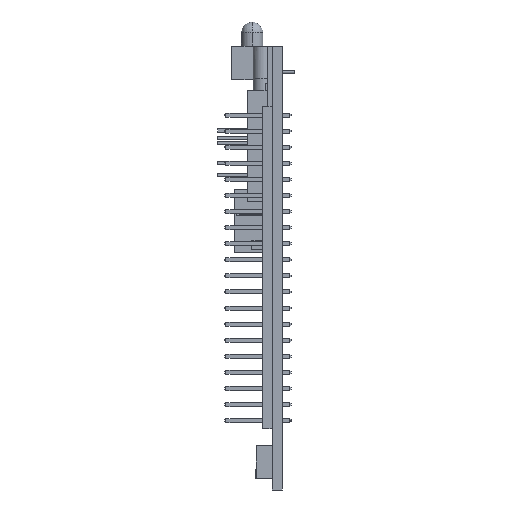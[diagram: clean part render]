
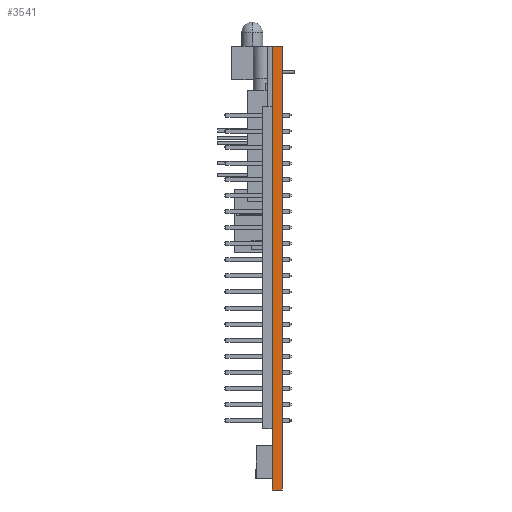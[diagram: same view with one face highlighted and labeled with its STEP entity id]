
A CAD part, left-side view. The second image highlights one B-rep face of the part: STEP entity #3541.
In plain terms, the highlighted planar face has unit normal (-1, 0, 0).
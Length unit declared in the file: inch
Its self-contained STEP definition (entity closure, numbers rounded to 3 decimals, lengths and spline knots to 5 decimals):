
#368 = DIRECTION ( 'NONE',  ( 0., -1., 0. ) ) ;
#819 = ORIENTED_EDGE ( 'NONE', *, *, #25139, .F. ) ;
#1610 = CARTESIAN_POINT ( 'NONE',  ( -1.77165, 0.0625, 1.37795 ) ) ;
#1803 = EDGE_LOOP ( 'NONE', ( #4853, #819, #19360, #6820 ) ) ;
#3541 = ADVANCED_FACE ( 'NONE', ( #21869 ), #21371, .F. ) ;
#4853 = ORIENTED_EDGE ( 'NONE', *, *, #14468, .T. ) ;
#5885 = CARTESIAN_POINT ( 'NONE',  ( -1.77165, 0.0625, 1.37795 ) ) ;
#6820 = ORIENTED_EDGE ( 'NONE', *, *, #20474, .T. ) ;
#6970 = LINE ( 'NONE', #21040, #10271 ) ;
#8568 = CARTESIAN_POINT ( 'NONE',  ( -1.77165, 0.0625, 1.37795 ) ) ;
#9372 = EDGE_CURVE ( 'NONE', #21695, #20770, #25029, .T. ) ;
#9419 = DIRECTION ( 'NONE',  ( 1., 0., 0. ) ) ;
#10271 = VECTOR ( 'NONE', #368, 39.37008 ) ;
#11160 = CARTESIAN_POINT ( 'NONE',  ( -1.77165, 0., -1.37795 ) ) ;
#11634 = CARTESIAN_POINT ( 'NONE',  ( -1.77165, 0., 1.37795 ) ) ;
#13665 = CARTESIAN_POINT ( 'NONE',  ( -1.77165, 0.0625, 1.37795 ) ) ;
#14180 = DIRECTION ( 'NONE',  ( 0., -1., 0. ) ) ;
#14285 = CARTESIAN_POINT ( 'NONE',  ( -1.77165, 0., 1.37795 ) ) ;
#14468 = EDGE_CURVE ( 'NONE', #23766, #25522, #24361, .T. ) ;
#14817 = DIRECTION ( 'NONE',  ( 0., 0., 1. ) ) ;
#16134 = DIRECTION ( 'NONE',  ( 0., 0., 1. ) ) ;
#16537 = VECTOR ( 'NONE', #16134, 39.37008 ) ;
#16682 = CARTESIAN_POINT ( 'NONE',  ( -1.77165, 0.0625, -1.37795 ) ) ;
#19360 = ORIENTED_EDGE ( 'NONE', *, *, #9372, .F. ) ;
#20018 = LINE ( 'NONE', #13665, #24491 ) ;
#20474 = EDGE_CURVE ( 'NONE', #21695, #23766, #6970, .T. ) ;
#20770 = VERTEX_POINT ( 'NONE', #5885 ) ;
#21040 = CARTESIAN_POINT ( 'NONE',  ( -1.77165, 0.0625, -1.37795 ) ) ;
#21371 = PLANE ( 'NONE',  #21385 ) ;
#21385 = AXIS2_PLACEMENT_3D ( 'NONE', #1610, #9419, #21629 ) ;
#21629 = DIRECTION ( 'NONE',  ( 0., 0., -1. ) ) ;
#21695 = VERTEX_POINT ( 'NONE', #16682 ) ;
#21869 = FACE_OUTER_BOUND ( 'NONE', #1803, .T. ) ;
#23766 = VERTEX_POINT ( 'NONE', #11160 ) ;
#24361 = LINE ( 'NONE', #14285, #16537 ) ;
#24491 = VECTOR ( 'NONE', #14180, 39.37008 ) ;
#25029 = LINE ( 'NONE', #8568, #26194 ) ;
#25139 = EDGE_CURVE ( 'NONE', #20770, #25522, #20018, .T. ) ;
#25522 = VERTEX_POINT ( 'NONE', #11634 ) ;
#26194 = VECTOR ( 'NONE', #14817, 39.37008 ) ;
